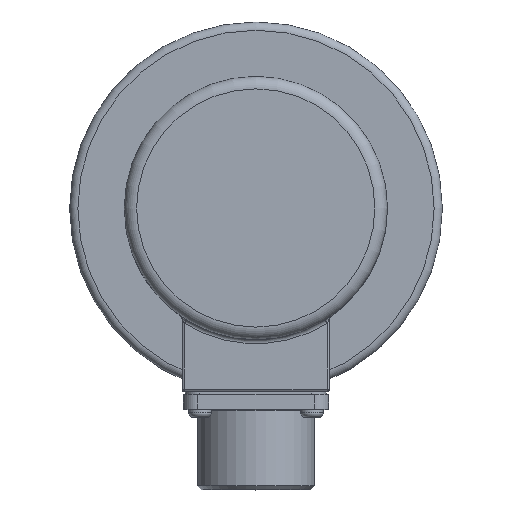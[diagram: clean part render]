
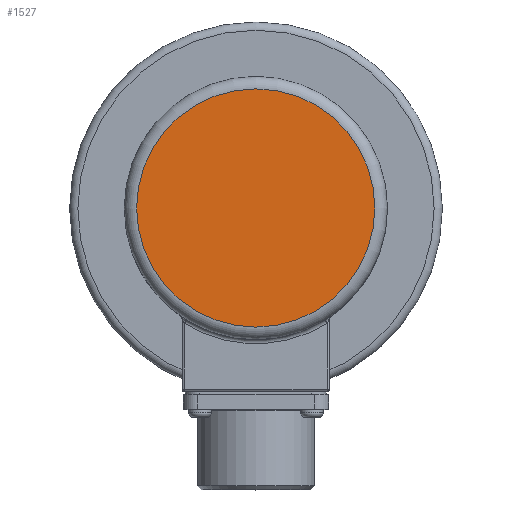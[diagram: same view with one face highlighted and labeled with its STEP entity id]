
A CAD part, top view. The second image highlights one B-rep face of the part: STEP entity #1527.
In plain terms, the highlighted planar face has unit normal (0, 0, 1).
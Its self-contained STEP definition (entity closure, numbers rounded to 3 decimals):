
#872 = VERTEX_POINT('',#873);
#873 = CARTESIAN_POINT('',(28.75,0.,55.6));
#882 = EDGE_CURVE('',#872,#872,#883,.T.);
#883 = CIRCLE('',#884,28.75);
#884 = AXIS2_PLACEMENT_3D('',#885,#886,#887);
#885 = CARTESIAN_POINT('',(0.,0.,55.6));
#886 = DIRECTION('',(0.,0.,1.));
#887 = DIRECTION('',(1.,0.,-0.));
#1527 = ADVANCED_FACE('',(#1528),#1531,.T.);
#1528 = FACE_BOUND('',#1529,.T.);
#1529 = EDGE_LOOP('',(#1530));
#1530 = ORIENTED_EDGE('',*,*,#882,.T.);
#1531 = PLANE('',#1532);
#1532 = AXIS2_PLACEMENT_3D('',#1533,#1534,#1535);
#1533 = CARTESIAN_POINT('',(0.,0.,55.6));
#1534 = DIRECTION('',(0.,0.,1.));
#1535 = DIRECTION('',(1.,0.,0.));
